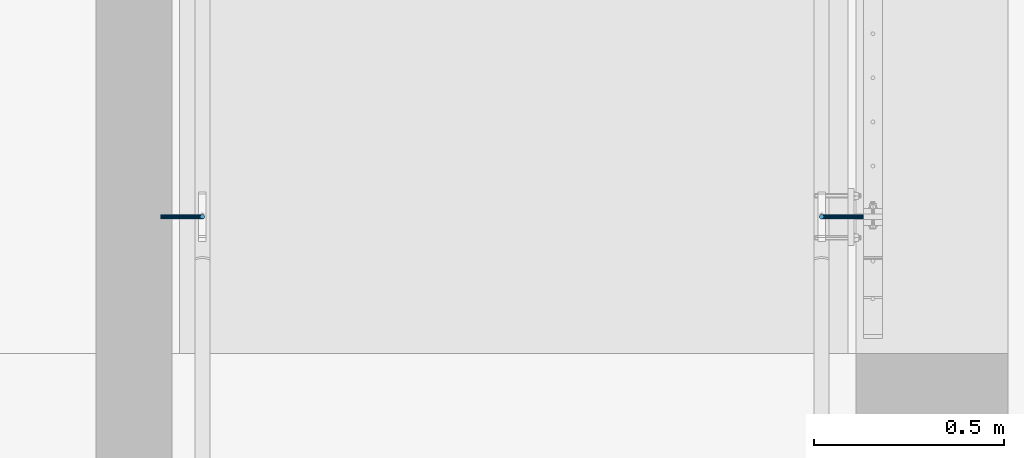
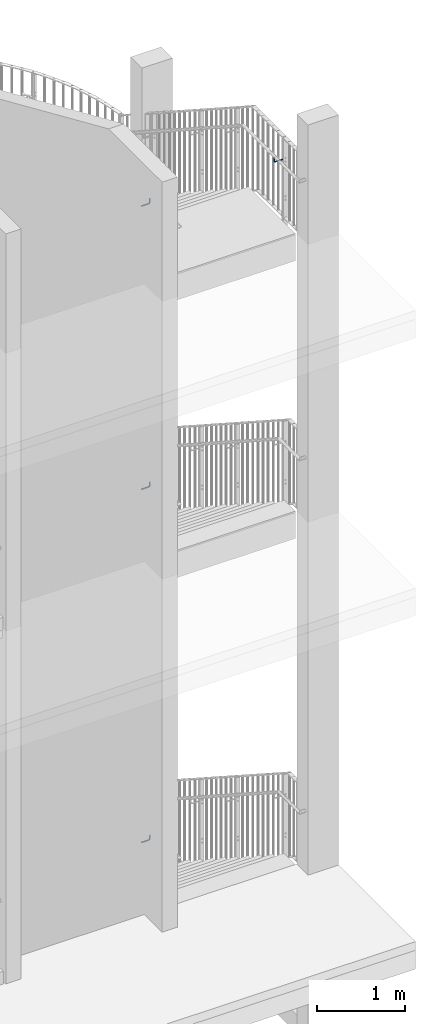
# One storey, part 133 of 296: 4 beams.
"""IFC2X3 building model written with IfcOpenShell, lengths in millimetres."""

from ifc_helpers import new_model, entity, si_unit, converted_unit, origin_with_axes, place, context, project, spatial, faceted_brep, material, element, save


model = new_model("IFC2X3")

# Units and contexts
model_context = context("Model", 3, precision=1e-09, world=origin_with_axes())
ifc_project = project(units=[si_unit("LENGTHUNIT", "METRE", prefix="MILLI"), si_unit("AREAUNIT", "SQUARE_METRE"), si_unit("VOLUMEUNIT", "CUBIC_METRE"), converted_unit("PLANEANGLEUNIT", "DEGREE", entity("IfcPlaneAngleMeasure", 0.01745329), si_unit("PLANEANGLEUNIT", "RADIAN"), dimensions=[0, 0, 0, 0, 0, 0, 0])], contexts=[model_context])

# Site, building, storey
site_placement = place(None, origin_with_axes())
site = spatial("IfcSite", under=ifc_project, at=site_placement, Name="TZD-S?d | Treppenhausgel?nder", CompositionType="ELEMENT")
building_placement = place(site_placement, origin_with_axes())
building = spatial("IfcBuilding", under=site, at=building_placement, Name="Struktur 1", CompositionType="ELEMENT")
storey_placement = place(building_placement, origin_with_axes())
storey = spatial("IfcBuildingStorey", under=building, at=storey_placement, Name="Default Storey", CompositionType="ELEMENT", Elevation=0.0)

# Beams
ifc_material = material(Name="S235JR")
beam_1_placement = place(None, origin_with_axes())
element("IfcBeam", 1, at=beam_1_placement, inside=storey, material=ifc_material, Name="-", ObjectType="-", context=model_context, shape_type="Brep", body=[
    faceted_brep([(5754.455722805, -3417.296100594, 14510.0), (5755.756359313, -3419.242640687, 14510.0), (5757.702899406, -3420.543277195, 14510.0), (5759.999, -3421.0, 14510.0), (5762.295100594, -3420.543277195, 14510.0), (5764.241640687, -3419.242640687, 14510.0), (5765.542277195, -3417.296100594, 14510.0), (5765.999, -3415.0, 14510.0), (5765.542277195, -3412.703899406, 14510.0), (5764.241640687, -3410.757359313, 14510.0), (5762.295100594, -3409.456722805, 14510.0), (5759.999, -3409.0, 14510.0), (5757.702899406, -3409.456722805, 14510.0), (5755.756359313, -3410.757359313, 14510.0), (5754.455722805, -3412.703899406, 14510.0), (5753.999, -3415.0, 14510.0), (5869.999, -3419.242640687, 14440.757359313), (5869.999, -3417.296100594, 14439.456722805), (5869.999, -3415.0, 14439.0), (5869.999, -3412.703899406, 14439.456722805), (5869.999, -3410.757359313, 14440.757359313), (5869.999, -3409.456722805, 14442.703899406), (5869.999, -3409.0, 14445.0), (5869.999, -3409.456722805, 14447.296100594), (5869.999, -3410.757359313, 14449.242640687), (5869.999, -3412.703899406, 14450.543277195), (5869.999, -3415.0, 14451.0), (5869.999, -3417.296100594, 14450.543277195), (5869.999, -3419.242640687, 14449.242640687), (5869.999, -3420.543277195, 14447.296100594), (5869.999, -3421.0, 14445.0), (5869.999, -3420.543277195, 14442.703899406), (5754.455722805, -3417.296100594, 14465.0), (5755.756359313, -3419.242640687, 14465.0), (5757.702899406, -3420.543277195, 14465.0), (5759.999, -3421.0, 14465.0), (5762.295100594, -3420.543277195, 14465.0), (5764.241640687, -3419.242640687, 14465.0), (5765.542277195, -3417.296100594, 14465.0), (5765.999, -3415.0, 14465.0), (5765.542277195, -3412.703899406, 14465.0), (5764.241640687, -3410.757359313, 14465.0), (5762.295100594, -3409.456722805, 14465.0), (5759.999, -3409.0, 14465.0), (5757.702899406, -3409.456722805, 14465.0), (5755.756359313, -3410.757359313, 14465.0), (5754.455722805, -3412.703899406, 14465.0), (5753.999, -3415.0, 14465.0), (5756.400089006, -3417.296100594, 14455.225011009), (5757.601720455, -3419.242640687, 14455.722743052), (5759.400089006, -3420.543277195, 14456.467651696), (5761.52140935, -3421.0, 14457.346331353), (5763.642729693, -3420.543277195, 14458.225011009), (5765.441098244, -3419.242640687, 14458.969919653), (5766.642729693, -3417.296100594, 14459.467651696), (5767.064686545, -3415.0, 14459.642431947), (5766.642729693, -3412.703899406, 14459.467651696), (5765.441098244, -3410.757359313, 14458.969919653), (5763.642729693, -3409.456722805, 14458.225011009), (5761.52140935, -3409.0, 14457.346331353), (5759.400089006, -3409.456722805, 14456.467651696), (5757.601720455, -3410.757359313, 14455.722743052), (5756.400089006, -3412.703899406, 14455.225011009), (5755.978132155, -3415.0, 14455.050230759), (5761.937175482, -3417.296100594, 14446.938175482), (5762.856864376, -3419.242640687, 14447.857864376), (5764.233276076, -3420.543277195, 14449.234276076), (5765.856864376, -3421.0, 14450.857864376), (5767.480452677, -3420.543277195, 14452.481452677), (5768.856864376, -3419.242640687, 14453.857864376), (5769.776553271, -3417.296100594, 14454.777553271), (5770.099505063, -3415.0, 14455.100505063), (5769.776553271, -3412.703899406, 14454.777553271), (5768.856864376, -3410.757359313, 14453.857864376), (5767.480452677, -3409.456722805, 14452.481452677), (5765.856864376, -3409.0, 14450.857864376), (5764.233276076, -3409.456722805, 14449.234276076), (5762.856864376, -3410.757359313, 14447.857864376), (5761.937175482, -3412.703899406, 14446.938175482), (5761.614223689, -3415.0, 14446.615223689), (5770.224011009, -3417.296100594, 14441.401089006), (5770.721743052, -3419.242640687, 14442.602720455), (5771.466651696, -3420.543277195, 14444.401089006), (5772.345331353, -3421.0, 14446.52240935), (5773.224011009, -3420.543277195, 14448.643729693), (5773.968919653, -3419.242640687, 14450.442098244), (5774.466651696, -3417.296100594, 14451.643729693), (5774.641431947, -3415.0, 14452.065686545), (5774.466651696, -3412.703899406, 14451.643729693), (5773.968919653, -3410.757359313, 14450.442098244), (5773.224011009, -3409.456722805, 14448.643729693), (5772.345331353, -3409.0, 14446.52240935), (5771.466651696, -3409.456722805, 14444.401089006), (5770.721743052, -3410.757359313, 14442.602720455), (5770.224011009, -3412.703899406, 14441.401089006), (5770.049230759, -3415.0, 14440.979132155), (5779.999, -3417.296100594, 14439.456722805), (5779.999, -3419.242640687, 14440.757359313), (5779.999, -3420.543277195, 14442.703899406), (5779.999, -3421.0, 14445.0), (5779.999, -3420.543277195, 14447.296100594), (5779.999, -3419.242640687, 14449.242640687), (5779.999, -3417.296100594, 14450.543277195), (5779.999, -3415.0, 14451.0), (5779.999, -3412.703899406, 14450.543277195), (5779.999, -3410.757359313, 14449.242640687), (5779.999, -3409.456722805, 14447.296100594), (5779.999, -3409.0, 14445.0), (5779.999, -3409.456722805, 14442.703899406), (5779.999, -3410.757359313, 14440.757359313), (5779.999, -3412.703899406, 14439.456722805), (5779.999, -3415.0, 14439.0)], [[[0, 1, 2, 3, 4, 5, 6, 7, 8, 9, 10, 11, 12, 13, 14, 15]], [[16, 17, 18, 19, 20, 21, 22, 23, 24, 25, 26, 27, 28, 29, 30, 31]], [[1, 0, 32, 33]], [[2, 1, 33, 34]], [[3, 2, 34, 35]], [[4, 3, 35, 36]], [[5, 4, 36, 37]], [[6, 5, 37, 38]], [[7, 6, 38, 39]], [[8, 7, 39, 40]], [[9, 8, 40, 41]], [[10, 9, 41, 42]], [[11, 10, 42, 43]], [[12, 11, 43, 44]], [[13, 12, 44, 45]], [[14, 13, 45, 46]], [[15, 14, 46, 47]], [[0, 15, 47, 32]], [[33, 32, 48, 49]], [[34, 33, 49, 50]], [[35, 34, 50, 51]], [[36, 35, 51, 52]], [[37, 36, 52, 53]], [[38, 37, 53, 54]], [[39, 38, 54, 55]], [[40, 39, 55, 56]], [[41, 40, 56, 57]], [[42, 41, 57, 58]], [[43, 42, 58, 59]], [[44, 43, 59, 60]], [[45, 44, 60, 61]], [[46, 45, 61, 62]], [[47, 46, 62, 63]], [[32, 47, 63, 48]], [[49, 48, 64, 65]], [[50, 49, 65, 66]], [[51, 50, 66, 67]], [[52, 51, 67, 68]], [[53, 52, 68, 69]], [[54, 53, 69, 70]], [[55, 54, 70, 71]], [[56, 55, 71, 72]], [[57, 56, 72, 73]], [[58, 57, 73, 74]], [[59, 58, 74, 75]], [[60, 59, 75, 76]], [[61, 60, 76, 77]], [[62, 61, 77, 78]], [[63, 62, 78, 79]], [[48, 63, 79, 64]], [[65, 64, 80, 81]], [[66, 65, 81, 82]], [[67, 66, 82, 83]], [[68, 67, 83, 84]], [[69, 68, 84, 85]], [[70, 69, 85, 86]], [[71, 70, 86, 87]], [[72, 71, 87, 88]], [[73, 72, 88, 89]], [[74, 73, 89, 90]], [[75, 74, 90, 91]], [[76, 75, 91, 92]], [[77, 76, 92, 93]], [[78, 77, 93, 94]], [[79, 78, 94, 95]], [[64, 79, 95, 80]], [[81, 80, 96, 97]], [[82, 81, 97, 98]], [[83, 82, 98, 99]], [[84, 83, 99, 100]], [[85, 84, 100, 101]], [[86, 85, 101, 102]], [[87, 86, 102, 103]], [[88, 87, 103, 104]], [[89, 88, 104, 105]], [[90, 89, 105, 106]], [[91, 90, 106, 107]], [[92, 91, 107, 108]], [[93, 92, 108, 109]], [[94, 93, 109, 110]], [[95, 94, 110, 111]], [[80, 95, 111, 96]], [[97, 96, 17, 16]], [[98, 97, 16, 31]], [[99, 98, 31, 30]], [[100, 99, 30, 29]], [[101, 100, 29, 28]], [[102, 101, 28, 27]], [[103, 102, 27, 26]], [[104, 103, 26, 25]], [[105, 104, 25, 24]], [[106, 105, 24, 23]], [[107, 106, 23, 22]], [[108, 107, 22, 21]], [[109, 108, 21, 20]], [[110, 109, 20, 19]], [[111, 110, 19, 18]], [[96, 111, 18, 17]]]),
])
beam_2_placement = place(None, origin_with_axes())
element("IfcBeam", 2, at=beam_2_placement, inside=storey, material=ifc_material, Name="-", ObjectType="-", context=model_context, shape_type="Brep", body=[
    faceted_brep([(4134.241640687, -3419.242640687, 14510.0), (4135.542277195, -3417.296100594, 14510.0), (4135.999, -3415.0, 14510.0), (4135.542277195, -3412.703899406, 14510.0), (4134.241640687, -3410.757359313, 14510.0), (4132.295100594, -3409.456722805, 14510.0), (4129.999, -3409.0, 14510.0), (4127.702899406, -3409.456722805, 14510.0), (4125.756359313, -3410.757359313, 14510.0), (4124.455722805, -3412.703899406, 14510.0), (4123.999, -3415.0, 14510.0), (4124.455722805, -3417.296100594, 14510.0), (4125.756359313, -3419.242640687, 14510.0), (4127.702899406, -3420.543277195, 14510.0), (4129.999, -3421.0, 14510.0), (4132.295100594, -3420.543277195, 14510.0), (4019.999, -3417.296100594, 14439.456722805), (4019.999, -3419.242640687, 14440.757359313), (4019.999, -3420.543277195, 14442.703899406), (4019.999, -3421.0, 14445.0), (4019.999, -3420.543277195, 14447.296100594), (4019.999, -3419.242640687, 14449.242640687), (4019.999, -3417.296100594, 14450.543277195), (4019.999, -3415.0, 14451.0), (4019.999, -3412.703899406, 14450.543277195), (4019.999, -3410.757359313, 14449.242640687), (4019.999, -3409.456722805, 14447.296100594), (4019.999, -3409.0, 14445.0), (4019.999, -3409.456722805, 14442.703899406), (4019.999, -3410.757359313, 14440.757359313), (4019.999, -3412.703899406, 14439.456722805), (4019.999, -3415.0, 14439.0), (4134.241640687, -3419.242640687, 14465.0), (4135.542277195, -3417.296100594, 14465.0), (4132.295100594, -3420.543277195, 14465.0), (4129.999, -3421.0, 14465.0), (4127.702899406, -3420.543277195, 14465.0), (4125.756359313, -3419.242640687, 14465.0), (4124.455722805, -3417.296100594, 14465.0), (4123.999, -3415.0, 14465.0), (4124.455722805, -3412.703899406, 14465.0), (4125.756359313, -3410.757359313, 14465.0), (4127.702899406, -3409.456722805, 14465.0), (4129.999, -3409.0, 14465.0), (4132.295100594, -3409.456722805, 14465.0), (4134.241640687, -3410.757359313, 14465.0), (4135.542277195, -3412.703899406, 14465.0), (4135.999, -3415.0, 14465.0), (4132.396279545, -3419.242640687, 14455.722743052), (4133.597910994, -3417.296100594, 14455.225011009), (4130.597910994, -3420.543277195, 14456.467651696), (4128.47659065, -3421.0, 14457.346331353), (4126.355270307, -3420.543277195, 14458.225011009), (4124.556901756, -3419.242640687, 14458.969919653), (4123.355270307, -3417.296100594, 14459.467651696), (4122.933313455, -3415.0, 14459.642431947), (4123.355270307, -3412.703899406, 14459.467651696), (4124.556901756, -3410.757359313, 14458.969919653), (4126.355270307, -3409.456722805, 14458.225011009), (4128.47659065, -3409.0, 14457.346331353), (4130.597910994, -3409.456722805, 14456.467651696), (4132.396279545, -3410.757359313, 14455.722743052), (4133.597910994, -3412.703899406, 14455.225011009), (4134.019867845, -3415.0, 14455.050230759), (4127.141135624, -3419.242640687, 14447.857864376), (4128.060824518, -3417.296100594, 14446.938175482), (4125.764723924, -3420.543277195, 14449.234276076), (4124.141135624, -3421.0, 14450.857864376), (4122.517547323, -3420.543277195, 14452.481452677), (4121.141135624, -3419.242640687, 14453.857864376), (4120.221446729, -3417.296100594, 14454.777553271), (4119.898494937, -3415.0, 14455.100505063), (4120.221446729, -3412.703899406, 14454.777553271), (4121.141135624, -3410.757359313, 14453.857864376), (4122.517547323, -3409.456722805, 14452.481452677), (4124.141135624, -3409.0, 14450.857864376), (4125.764723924, -3409.456722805, 14449.234276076), (4127.141135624, -3410.757359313, 14447.857864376), (4128.060824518, -3412.703899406, 14446.938175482), (4128.383776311, -3415.0, 14446.615223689), (4119.276256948, -3419.242640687, 14442.602720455), (4119.773988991, -3417.296100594, 14441.401089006), (4118.531348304, -3420.543277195, 14444.401089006), (4117.652668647, -3421.0, 14446.52240935), (4116.773988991, -3420.543277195, 14448.643729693), (4116.029080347, -3419.242640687, 14450.442098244), (4115.531348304, -3417.296100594, 14451.643729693), (4115.356568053, -3415.0, 14452.065686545), (4115.531348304, -3412.703899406, 14451.643729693), (4116.029080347, -3410.757359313, 14450.442098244), (4116.773988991, -3409.456722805, 14448.643729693), (4117.652668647, -3409.0, 14446.52240935), (4118.531348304, -3409.456722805, 14444.401089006), (4119.276256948, -3410.757359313, 14442.602720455), (4119.773988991, -3412.703899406, 14441.401089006), (4119.948769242, -3415.0, 14440.979132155), (4109.999, -3419.242640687, 14440.757359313), (4109.999, -3417.296100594, 14439.456722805), (4109.999, -3420.543277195, 14442.703899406), (4109.999, -3421.0, 14445.0), (4109.999, -3420.543277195, 14447.296100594), (4109.999, -3419.242640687, 14449.242640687), (4109.999, -3417.296100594, 14450.543277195), (4109.999, -3415.0, 14451.0), (4109.999, -3412.703899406, 14450.543277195), (4109.999, -3410.757359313, 14449.242640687), (4109.999, -3409.456722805, 14447.296100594), (4109.999, -3409.0, 14445.0), (4109.999, -3409.456722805, 14442.703899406), (4109.999, -3410.757359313, 14440.757359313), (4109.999, -3412.703899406, 14439.456722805), (4109.999, -3415.0, 14439.0)], [[[0, 1, 2, 3, 4, 5, 6, 7, 8, 9, 10, 11, 12, 13, 14, 15]], [[16, 17, 18, 19, 20, 21, 22, 23, 24, 25, 26, 27, 28, 29, 30, 31]], [[1, 0, 32, 33]], [[0, 15, 34, 32]], [[15, 14, 35, 34]], [[14, 13, 36, 35]], [[13, 12, 37, 36]], [[12, 11, 38, 37]], [[11, 10, 39, 38]], [[10, 9, 40, 39]], [[9, 8, 41, 40]], [[8, 7, 42, 41]], [[7, 6, 43, 42]], [[6, 5, 44, 43]], [[5, 4, 45, 44]], [[4, 3, 46, 45]], [[3, 2, 47, 46]], [[2, 1, 33, 47]], [[33, 32, 48, 49]], [[32, 34, 50, 48]], [[34, 35, 51, 50]], [[35, 36, 52, 51]], [[36, 37, 53, 52]], [[37, 38, 54, 53]], [[38, 39, 55, 54]], [[39, 40, 56, 55]], [[40, 41, 57, 56]], [[41, 42, 58, 57]], [[42, 43, 59, 58]], [[43, 44, 60, 59]], [[44, 45, 61, 60]], [[45, 46, 62, 61]], [[46, 47, 63, 62]], [[47, 33, 49, 63]], [[49, 48, 64, 65]], [[48, 50, 66, 64]], [[50, 51, 67, 66]], [[51, 52, 68, 67]], [[52, 53, 69, 68]], [[53, 54, 70, 69]], [[54, 55, 71, 70]], [[55, 56, 72, 71]], [[56, 57, 73, 72]], [[57, 58, 74, 73]], [[58, 59, 75, 74]], [[59, 60, 76, 75]], [[60, 61, 77, 76]], [[61, 62, 78, 77]], [[62, 63, 79, 78]], [[63, 49, 65, 79]], [[65, 64, 80, 81]], [[64, 66, 82, 80]], [[66, 67, 83, 82]], [[67, 68, 84, 83]], [[68, 69, 85, 84]], [[69, 70, 86, 85]], [[70, 71, 87, 86]], [[71, 72, 88, 87]], [[72, 73, 89, 88]], [[73, 74, 90, 89]], [[74, 75, 91, 90]], [[75, 76, 92, 91]], [[76, 77, 93, 92]], [[77, 78, 94, 93]], [[78, 79, 95, 94]], [[79, 65, 81, 95]], [[81, 80, 96, 97]], [[80, 82, 98, 96]], [[82, 83, 99, 98]], [[83, 84, 100, 99]], [[84, 85, 101, 100]], [[85, 86, 102, 101]], [[86, 87, 103, 102]], [[87, 88, 104, 103]], [[88, 89, 105, 104]], [[89, 90, 106, 105]], [[90, 91, 107, 106]], [[91, 92, 108, 107]], [[92, 93, 109, 108]], [[93, 94, 110, 109]], [[94, 95, 111, 110]], [[95, 81, 97, 111]], [[97, 96, 17, 16]], [[96, 98, 18, 17]], [[98, 99, 19, 18]], [[99, 100, 20, 19]], [[100, 101, 21, 20]], [[101, 102, 22, 21]], [[102, 103, 23, 22]], [[103, 104, 24, 23]], [[104, 105, 25, 24]], [[105, 106, 26, 25]], [[106, 107, 27, 26]], [[107, 108, 28, 27]], [[108, 109, 29, 28]], [[109, 110, 30, 29]], [[110, 111, 31, 30]], [[111, 97, 16, 31]]]),
])
beam_3_placement = place(None, origin_with_axes())
element("IfcBeam", 3, at=beam_3_placement, inside=storey, material=ifc_material, Name="-", ObjectType="-", context=model_context, shape_type="Brep", body=[
    faceted_brep([(4133.105419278, -3420.00183956, 10584.336971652), (4126.892580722, -3420.00183956, 10584.336971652), (4127.702899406, -3420.543277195, 10584.336971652), (4129.999, -3421.0, 10584.336971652), (4132.295100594, -3420.543277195, 10584.336971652), (4135.542277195, -3417.296100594, 10582.584567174), (4134.241640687, -3419.242640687, 10583.845267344), (4134.241640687, -3419.242640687, 10539.336971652), (4135.542277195, -3417.296100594, 10539.336971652), (4132.295100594, -3420.543277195, 10539.336971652), (4129.999, -3421.0, 10539.336971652), (4127.702899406, -3420.543277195, 10539.336971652), (4125.756359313, -3419.242640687, 10583.845267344), (4125.756359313, -3419.242640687, 10539.336971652), (4124.455722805, -3417.296100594, 10582.584567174), (4124.455722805, -3417.296100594, 10539.336971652), (4123.999, -3415.0, 10581.097469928), (4123.999, -3415.0, 10539.336971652), (4124.455722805, -3412.703899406, 10579.610372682), (4124.455722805, -3412.703899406, 10539.336971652), (4125.756359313, -3410.757359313, 10578.349672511), (4125.756359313, -3410.757359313, 10539.336971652), (4127.702899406, -3409.456722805, 10577.507299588), (4127.702899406, -3409.456722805, 10539.336971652), (4129.999, -3409.0, 10577.211497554), (4129.999, -3409.0, 10539.336971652), (4132.295100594, -3409.456722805, 10577.507299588), (4132.295100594, -3409.456722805, 10539.336971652), (4134.241640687, -3410.757359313, 10578.349672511), (4134.241640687, -3410.757359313, 10539.336971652), (4135.542277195, -3412.703899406, 10579.610372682), (4135.542277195, -3412.703899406, 10539.336971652), (4135.999, -3415.0, 10581.097469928), (4135.999, -3415.0, 10539.336971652), (4019.999, -3417.296100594, 10513.793694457), (4019.999, -3419.242640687, 10515.094330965), (4019.999, -3420.543277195, 10517.040871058), (4019.999, -3421.0, 10519.336971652), (4019.999, -3420.543277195, 10521.633072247), (4019.999, -3419.242640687, 10523.57961234), (4019.999, -3417.296100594, 10524.880248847), (4019.999, -3415.0, 10525.336971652), (4019.999, -3412.703899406, 10524.880248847), (4019.999, -3410.757359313, 10523.57961234), (4019.999, -3409.456722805, 10521.633072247), (4019.999, -3409.0, 10519.336971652), (4019.999, -3409.456722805, 10517.040871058), (4019.999, -3410.757359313, 10515.094330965), (4019.999, -3412.703899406, 10513.793694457), (4019.999, -3415.0, 10513.336971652), (4132.396279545, -3419.242640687, 10530.059714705), (4133.597910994, -3417.296100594, 10529.561982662), (4130.597910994, -3420.543277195, 10530.804623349), (4128.47659065, -3421.0, 10531.683303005), (4126.355270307, -3420.543277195, 10532.561982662), (4124.556901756, -3419.242640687, 10533.306891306), (4123.355270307, -3417.296100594, 10533.804623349), (4122.933313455, -3415.0, 10533.979403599), (4123.355270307, -3412.703899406, 10533.804623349), (4124.556901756, -3410.757359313, 10533.306891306), (4126.355270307, -3409.456722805, 10532.561982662), (4128.47659065, -3409.0, 10531.683303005), (4130.597910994, -3409.456722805, 10530.804623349), (4132.396279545, -3410.757359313, 10530.059714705), (4133.597910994, -3412.703899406, 10529.561982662), (4134.019867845, -3415.0, 10529.387202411), (4127.141135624, -3419.242640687, 10522.194836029), (4128.060824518, -3417.296100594, 10521.275147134), (4125.764723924, -3420.543277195, 10523.571247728), (4124.141135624, -3421.0, 10525.194836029), (4122.517547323, -3420.543277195, 10526.818424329), (4121.141135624, -3419.242640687, 10528.194836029), (4120.221446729, -3417.296100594, 10529.114524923), (4119.898494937, -3415.0, 10529.437476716), (4120.221446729, -3412.703899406, 10529.114524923), (4121.141135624, -3410.757359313, 10528.194836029), (4122.517547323, -3409.456722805, 10526.818424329), (4124.141135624, -3409.0, 10525.194836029), (4125.764723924, -3409.456722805, 10523.571247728), (4127.141135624, -3410.757359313, 10522.194836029), (4128.060824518, -3412.703899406, 10521.275147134), (4128.383776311, -3415.0, 10520.952195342), (4119.276256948, -3419.242640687, 10516.939692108), (4119.773988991, -3417.296100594, 10515.738060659), (4118.531348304, -3420.543277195, 10518.738060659), (4117.652668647, -3421.0, 10520.859381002), (4116.773988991, -3420.543277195, 10522.980701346), (4116.029080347, -3419.242640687, 10524.779069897), (4115.531348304, -3417.296100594, 10525.980701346), (4115.356568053, -3415.0, 10526.402658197), (4115.531348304, -3412.703899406, 10525.980701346), (4116.029080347, -3410.757359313, 10524.779069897), (4116.773988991, -3409.456722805, 10522.980701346), (4117.652668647, -3409.0, 10520.859381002), (4118.531348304, -3409.456722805, 10518.738060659), (4119.276256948, -3410.757359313, 10516.939692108), (4119.773988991, -3412.703899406, 10515.738060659), (4119.948769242, -3415.0, 10515.316103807), (4109.999, -3419.242640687, 10515.094330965), (4109.999, -3417.296100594, 10513.793694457), (4109.999, -3420.543277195, 10517.040871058), (4109.999, -3421.0, 10519.336971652), (4109.999, -3420.543277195, 10521.633072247), (4109.999, -3419.242640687, 10523.57961234), (4109.999, -3417.296100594, 10524.880248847), (4109.999, -3415.0, 10525.336971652), (4109.999, -3412.703899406, 10524.880248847), (4109.999, -3410.757359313, 10523.57961234), (4109.999, -3409.456722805, 10521.633072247), (4109.999, -3409.0, 10519.336971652), (4109.999, -3409.456722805, 10517.040871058), (4109.999, -3410.757359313, 10515.094330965), (4109.999, -3412.703899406, 10513.793694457), (4109.999, -3415.0, 10513.336971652)], [[[0, 1, 2, 3, 4]], [[5, 6, 7, 8]], [[6, 0, 4, 9, 7]], [[4, 3, 10, 9]], [[3, 2, 11, 10]], [[1, 12, 13, 11, 2]], [[12, 14, 15, 13]], [[14, 16, 17, 15]], [[16, 18, 19, 17]], [[18, 20, 21, 19]], [[20, 22, 23, 21]], [[22, 24, 25, 23]], [[24, 26, 27, 25]], [[26, 28, 29, 27]], [[28, 30, 31, 29]], [[30, 32, 33, 31]], [[32, 5, 8, 33]], [[16, 14, 12, 1, 0, 6, 5, 32, 30, 28, 26, 24, 22, 20, 18]], [[34, 35, 36, 37, 38, 39, 40, 41, 42, 43, 44, 45, 46, 47, 48, 49]], [[8, 7, 50, 51]], [[7, 9, 52, 50]], [[9, 10, 53, 52]], [[10, 11, 54, 53]], [[11, 13, 55, 54]], [[13, 15, 56, 55]], [[15, 17, 57, 56]], [[17, 19, 58, 57]], [[19, 21, 59, 58]], [[21, 23, 60, 59]], [[23, 25, 61, 60]], [[25, 27, 62, 61]], [[27, 29, 63, 62]], [[29, 31, 64, 63]], [[31, 33, 65, 64]], [[33, 8, 51, 65]], [[51, 50, 66, 67]], [[50, 52, 68, 66]], [[52, 53, 69, 68]], [[53, 54, 70, 69]], [[54, 55, 71, 70]], [[55, 56, 72, 71]], [[56, 57, 73, 72]], [[57, 58, 74, 73]], [[58, 59, 75, 74]], [[59, 60, 76, 75]], [[60, 61, 77, 76]], [[61, 62, 78, 77]], [[62, 63, 79, 78]], [[63, 64, 80, 79]], [[64, 65, 81, 80]], [[65, 51, 67, 81]], [[67, 66, 82, 83]], [[66, 68, 84, 82]], [[68, 69, 85, 84]], [[69, 70, 86, 85]], [[70, 71, 87, 86]], [[71, 72, 88, 87]], [[72, 73, 89, 88]], [[73, 74, 90, 89]], [[74, 75, 91, 90]], [[75, 76, 92, 91]], [[76, 77, 93, 92]], [[77, 78, 94, 93]], [[78, 79, 95, 94]], [[79, 80, 96, 95]], [[80, 81, 97, 96]], [[81, 67, 83, 97]], [[83, 82, 98, 99]], [[82, 84, 100, 98]], [[84, 85, 101, 100]], [[85, 86, 102, 101]], [[86, 87, 103, 102]], [[87, 88, 104, 103]], [[88, 89, 105, 104]], [[89, 90, 106, 105]], [[90, 91, 107, 106]], [[91, 92, 108, 107]], [[92, 93, 109, 108]], [[93, 94, 110, 109]], [[94, 95, 111, 110]], [[95, 96, 112, 111]], [[96, 97, 113, 112]], [[97, 83, 99, 113]], [[99, 98, 35, 34]], [[98, 100, 36, 35]], [[100, 101, 37, 36]], [[101, 102, 38, 37]], [[102, 103, 39, 38]], [[103, 104, 40, 39]], [[104, 105, 41, 40]], [[105, 106, 42, 41]], [[106, 107, 43, 42]], [[107, 108, 44, 43]], [[108, 109, 45, 44]], [[109, 110, 46, 45]], [[110, 111, 47, 46]], [[111, 112, 48, 47]], [[112, 113, 49, 48]], [[113, 99, 34, 49]]]),
])
beam_4_placement = place(None, origin_with_axes())
element("IfcBeam", 4, at=beam_4_placement, inside=storey, material=ifc_material, Name="-", ObjectType="-", context=model_context, shape_type="Brep", body=[
    faceted_brep([(4133.105415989, -3420.001841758, 5687.708729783), (4126.892584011, -3420.001841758, 5687.708729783), (4127.702899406, -3420.543277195, 5687.708729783), (4129.999, -3421.0, 5687.708729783), (4132.295100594, -3420.543277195, 5687.708729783), (4135.542277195, -3417.296100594, 5685.959290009), (4134.241640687, -3419.242640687, 5687.217856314), (4134.241640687, -3419.242640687, 5642.708729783), (4135.542277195, -3417.296100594, 5642.708729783), (4132.295100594, -3420.543277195, 5642.708729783), (4129.999, -3421.0, 5642.708729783), (4127.702899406, -3420.543277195, 5642.708729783), (4125.756359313, -3419.242640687, 5687.217856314), (4125.756359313, -3419.242640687, 5642.708729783), (4124.455722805, -3417.296100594, 5685.959290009), (4124.455722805, -3417.296100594, 5642.708729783), (4123.999, -3415.0, 5684.474709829), (4123.999, -3415.0, 5642.708729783), (4124.455722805, -3412.703899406, 5682.990129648), (4124.455722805, -3412.703899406, 5642.708729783), (4125.756359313, -3410.757359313, 5681.731563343), (4125.756359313, -3410.757359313, 5642.708729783), (4127.702899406, -3409.456722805, 5680.890616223), (4127.702899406, -3409.456722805, 5642.708729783), (4129.999, -3409.0, 5680.595314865), (4129.999, -3409.0, 5642.708729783), (4132.295100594, -3409.456722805, 5680.890616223), (4132.295100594, -3409.456722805, 5642.708729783), (4134.241640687, -3410.757359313, 5681.731563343), (4134.241640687, -3410.757359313, 5642.708729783), (4135.542277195, -3412.703899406, 5682.990129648), (4135.542277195, -3412.703899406, 5642.708729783), (4135.999, -3415.0, 5684.474709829), (4135.999, -3415.0, 5642.708729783), (4019.999, -3417.296100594, 5617.165452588), (4019.999, -3419.242640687, 5618.466089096), (4019.999, -3420.543277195, 5620.412629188), (4019.999, -3421.0, 5622.708729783), (4019.999, -3420.543277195, 5625.004830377), (4019.999, -3419.242640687, 5626.95137047), (4019.999, -3417.296100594, 5628.252006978), (4019.999, -3415.0, 5628.708729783), (4019.999, -3412.703899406, 5628.252006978), (4019.999, -3410.757359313, 5626.95137047), (4019.999, -3409.456722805, 5625.004830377), (4019.999, -3409.0, 5622.708729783), (4019.999, -3409.456722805, 5620.412629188), (4019.999, -3410.757359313, 5618.466089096), (4019.999, -3412.703899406, 5617.165452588), (4019.999, -3415.0, 5616.708729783), (4132.396279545, -3419.242640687, 5633.431472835), (4133.597910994, -3417.296100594, 5632.933740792), (4130.597910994, -3420.543277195, 5634.176381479), (4128.47659065, -3421.0, 5635.055061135), (4126.355270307, -3420.543277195, 5635.933740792), (4124.556901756, -3419.242640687, 5636.678649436), (4123.355270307, -3417.296100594, 5637.176381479), (4122.933313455, -3415.0, 5637.35116173), (4123.355270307, -3412.703899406, 5637.176381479), (4124.556901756, -3410.757359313, 5636.678649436), (4126.355270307, -3409.456722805, 5635.933740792), (4128.47659065, -3409.0, 5635.055061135), (4130.597910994, -3409.456722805, 5634.176381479), (4132.396279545, -3410.757359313, 5633.431472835), (4133.597910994, -3412.703899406, 5632.933740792), (4134.019867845, -3415.0, 5632.758960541), (4127.141135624, -3419.242640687, 5625.566594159), (4128.060824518, -3417.296100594, 5624.646905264), (4125.764723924, -3420.543277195, 5626.943005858), (4124.141135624, -3421.0, 5628.566594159), (4122.517547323, -3420.543277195, 5630.190182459), (4121.141135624, -3419.242640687, 5631.566594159), (4120.221446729, -3417.296100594, 5632.486283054), (4119.898494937, -3415.0, 5632.809234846), (4120.221446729, -3412.703899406, 5632.486283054), (4121.141135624, -3410.757359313, 5631.566594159), (4122.517547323, -3409.456722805, 5630.190182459), (4124.141135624, -3409.0, 5628.566594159), (4125.764723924, -3409.456722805, 5626.943005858), (4127.141135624, -3410.757359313, 5625.566594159), (4128.060824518, -3412.703899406, 5624.646905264), (4128.383776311, -3415.0, 5624.323953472), (4119.276256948, -3419.242640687, 5620.311450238), (4119.773988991, -3417.296100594, 5619.109818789), (4118.531348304, -3420.543277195, 5622.109818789), (4117.652668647, -3421.0, 5624.231139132), (4116.773988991, -3420.543277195, 5626.352459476), (4116.029080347, -3419.242640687, 5628.150828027), (4115.531348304, -3417.296100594, 5629.352459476), (4115.356568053, -3415.0, 5629.774416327), (4115.531348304, -3412.703899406, 5629.352459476), (4116.029080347, -3410.757359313, 5628.150828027), (4116.773988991, -3409.456722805, 5626.352459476), (4117.652668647, -3409.0, 5624.231139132), (4118.531348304, -3409.456722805, 5622.109818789), (4119.276256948, -3410.757359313, 5620.311450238), (4119.773988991, -3412.703899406, 5619.109818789), (4119.948769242, -3415.0, 5618.687861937), (4109.999, -3419.242640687, 5618.466089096), (4109.999, -3417.296100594, 5617.165452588), (4109.999, -3420.543277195, 5620.412629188), (4109.999, -3421.0, 5622.708729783), (4109.999, -3420.543277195, 5625.004830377), (4109.999, -3419.242640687, 5626.95137047), (4109.999, -3417.296100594, 5628.252006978), (4109.999, -3415.0, 5628.708729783), (4109.999, -3412.703899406, 5628.252006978), (4109.999, -3410.757359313, 5626.95137047), (4109.999, -3409.456722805, 5625.004830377), (4109.999, -3409.0, 5622.708729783), (4109.999, -3409.456722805, 5620.412629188), (4109.999, -3410.757359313, 5618.466089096), (4109.999, -3412.703899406, 5617.165452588), (4109.999, -3415.0, 5616.708729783)], [[[0, 1, 2, 3, 4]], [[5, 6, 7, 8]], [[6, 0, 4, 9, 7]], [[4, 3, 10, 9]], [[3, 2, 11, 10]], [[1, 12, 13, 11, 2]], [[12, 14, 15, 13]], [[14, 16, 17, 15]], [[16, 18, 19, 17]], [[18, 20, 21, 19]], [[20, 22, 23, 21]], [[22, 24, 25, 23]], [[24, 26, 27, 25]], [[26, 28, 29, 27]], [[28, 30, 31, 29]], [[30, 32, 33, 31]], [[32, 5, 8, 33]], [[16, 14, 12, 1, 0, 6, 5, 32, 30, 28, 26, 24, 22, 20, 18]], [[34, 35, 36, 37, 38, 39, 40, 41, 42, 43, 44, 45, 46, 47, 48, 49]], [[8, 7, 50, 51]], [[7, 9, 52, 50]], [[9, 10, 53, 52]], [[10, 11, 54, 53]], [[11, 13, 55, 54]], [[13, 15, 56, 55]], [[15, 17, 57, 56]], [[17, 19, 58, 57]], [[19, 21, 59, 58]], [[21, 23, 60, 59]], [[23, 25, 61, 60]], [[25, 27, 62, 61]], [[27, 29, 63, 62]], [[29, 31, 64, 63]], [[31, 33, 65, 64]], [[33, 8, 51, 65]], [[51, 50, 66, 67]], [[50, 52, 68, 66]], [[52, 53, 69, 68]], [[53, 54, 70, 69]], [[54, 55, 71, 70]], [[55, 56, 72, 71]], [[56, 57, 73, 72]], [[57, 58, 74, 73]], [[58, 59, 75, 74]], [[59, 60, 76, 75]], [[60, 61, 77, 76]], [[61, 62, 78, 77]], [[62, 63, 79, 78]], [[63, 64, 80, 79]], [[64, 65, 81, 80]], [[65, 51, 67, 81]], [[67, 66, 82, 83]], [[66, 68, 84, 82]], [[68, 69, 85, 84]], [[69, 70, 86, 85]], [[70, 71, 87, 86]], [[71, 72, 88, 87]], [[72, 73, 89, 88]], [[73, 74, 90, 89]], [[74, 75, 91, 90]], [[75, 76, 92, 91]], [[76, 77, 93, 92]], [[77, 78, 94, 93]], [[78, 79, 95, 94]], [[79, 80, 96, 95]], [[80, 81, 97, 96]], [[81, 67, 83, 97]], [[83, 82, 98, 99]], [[82, 84, 100, 98]], [[84, 85, 101, 100]], [[85, 86, 102, 101]], [[86, 87, 103, 102]], [[87, 88, 104, 103]], [[88, 89, 105, 104]], [[89, 90, 106, 105]], [[90, 91, 107, 106]], [[91, 92, 108, 107]], [[92, 93, 109, 108]], [[93, 94, 110, 109]], [[94, 95, 111, 110]], [[95, 96, 112, 111]], [[96, 97, 113, 112]], [[97, 83, 99, 113]], [[99, 98, 35, 34]], [[98, 100, 36, 35]], [[100, 101, 37, 36]], [[101, 102, 38, 37]], [[102, 103, 39, 38]], [[103, 104, 40, 39]], [[104, 105, 41, 40]], [[105, 106, 42, 41]], [[106, 107, 43, 42]], [[107, 108, 44, 43]], [[108, 109, 45, 44]], [[109, 110, 46, 45]], [[110, 111, 47, 46]], [[111, 112, 48, 47]], [[112, 113, 49, 48]], [[113, 99, 34, 49]]]),
])

save(model, "model.ifc")
